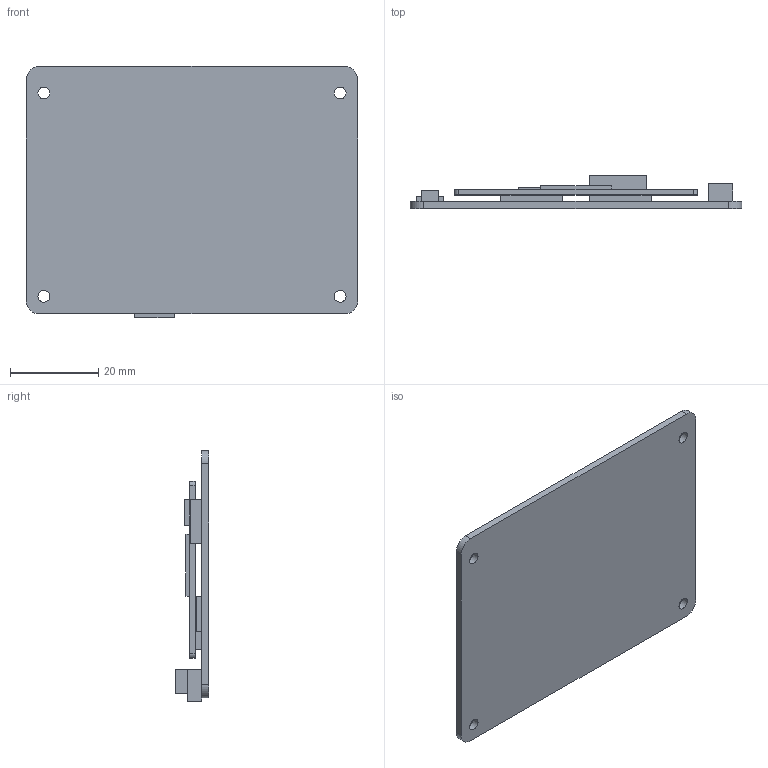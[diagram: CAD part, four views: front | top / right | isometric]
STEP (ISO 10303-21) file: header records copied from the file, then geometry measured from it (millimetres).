
FILE_DESCRIPTION(('Open CASCADE Model'),'2;1');
FILE_NAME('Open CASCADE Shape Model','2026-11-01T16:34:13',('Author'),( 'Open CASCADE'),'Open CASCADE STEP processor 8.0','build123d', 'Unknown');
FILE_SCHEMA(('AUTOMOTIVE_DESIGN { 1 0 10303 214 1 1 1 1 }'));
Length unit declared in the file: millimetre
Products named in the file (1): SOLID
Bounding box: 75 x 7.6 x 56.8 mm (x, y, z)
Volume: 10608.4 mm3; surface area: 13902.5 mm2
Topology: 1 solids, 1 shells, 63 faces, 160 edges, 106 vertices
Faces by surface type: plane 51, cylinder 12
Full cylindrical faces by diameter (mm): 2.7 x4
Entity records: 4016 total; most frequent: CARTESIAN_POINT 698, DIRECTION 624, LINE 432, VECTOR 432, ORIENTED_EDGE 320, PCURVE 320, DEFINITIONAL_REPRESENTATION 320, EDGE_CURVE 160
